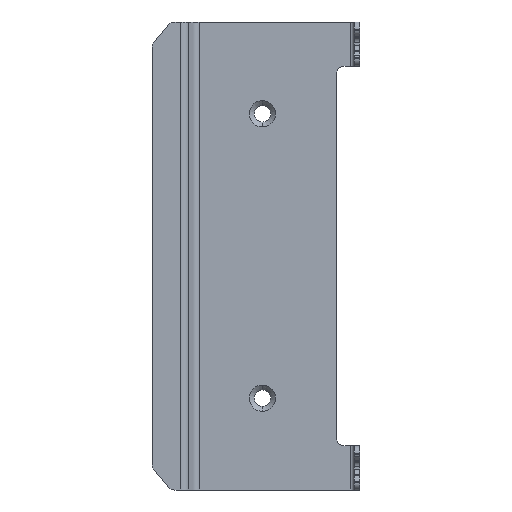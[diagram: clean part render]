
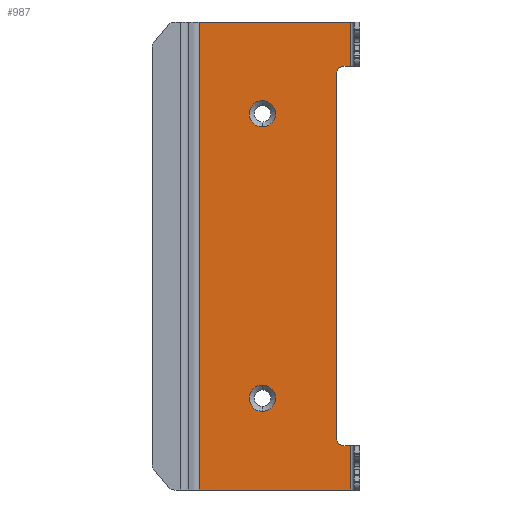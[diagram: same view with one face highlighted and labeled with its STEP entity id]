
A CAD part, left-side view. The second image highlights one B-rep face of the part: STEP entity #987.
In plain terms, the highlighted planar face has unit normal (-1, 0, 0).
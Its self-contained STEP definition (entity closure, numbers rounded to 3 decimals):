
#2 = AXIS2_PLACEMENT_3D ( 'NONE', #21, #190, #1787 ) ;
#15 = ORIENTED_EDGE ( 'NONE', *, *, #561, .T. ) ;
#21 = CARTESIAN_POINT ( 'NONE',  ( 7.3, -58.682, -50. ) ) ;
#23 = ORIENTED_EDGE ( 'NONE', *, *, #208, .F. ) ;
#32 = EDGE_CURVE ( 'NONE', #622, #879, #2449, .T. ) ;
#39 = ORIENTED_EDGE ( 'NONE', *, *, #2081, .T. ) ;
#77 = CARTESIAN_POINT ( 'NONE',  ( 7.3, -103.081, -24. ) ) ;
#79 = ORIENTED_EDGE ( 'NONE', *, *, #2356, .F. ) ;
#99 = DIRECTION ( 'NONE',  ( 0., 1., 0. ) ) ;
#122 = ORIENTED_EDGE ( 'NONE', *, *, #1177, .F. ) ;
#126 = EDGE_CURVE ( 'NONE', #1856, #1112, #2482, .T. ) ;
#129 = DIRECTION ( 'NONE',  ( 0., -1., 0. ) ) ;
#147 = DIRECTION ( 'NONE',  ( 0., -1., 0. ) ) ;
#166 = CARTESIAN_POINT ( 'NONE',  ( 7.3, -58.682, -57.15 ) ) ;
#175 = VECTOR ( 'NONE', #1851, 1000. ) ;
#181 = CARTESIAN_POINT ( 'NONE',  ( 7.3, -106.681, 0. ) ) ;
#190 = DIRECTION ( 'NONE',  ( -1., 0., 0. ) ) ;
#196 = VERTEX_POINT ( 'NONE', #166 ) ;
#200 = DIRECTION ( 'NONE',  ( 0., 0., 1. ) ) ;
#203 = VERTEX_POINT ( 'NONE', #1146 ) ;
#208 = EDGE_CURVE ( 'NONE', #203, #1835, #2333, .T. ) ;
#232 = EDGE_LOOP ( 'NONE', ( #15, #122, #39, #1952, #1638, #2275, #1219, #1140, #2318, #635 ) ) ;
#257 = CIRCLE ( 'NONE', #385, 7.15 ) ;
#277 = CARTESIAN_POINT ( 'NONE',  ( 7.3, -58.682, -50. ) ) ;
#305 = DIRECTION ( 'NONE',  ( -1., 0., 0. ) ) ;
#323 = EDGE_CURVE ( 'NONE', #1112, #2437, #1614, .T. ) ;
#331 = DIRECTION ( 'NONE',  ( -1., 0., 0. ) ) ;
#348 = EDGE_CURVE ( 'NONE', #2520, #196, #584, .T. ) ;
#359 = DIRECTION ( 'NONE',  ( 0., 1., 0. ) ) ;
#382 = CIRCLE ( 'NONE', #1082, 4. ) ;
#385 = AXIS2_PLACEMENT_3D ( 'NONE', #277, #305, #1096 ) ;
#463 = LINE ( 'NONE', #694, #1790 ) ;
#470 = EDGE_LOOP ( 'NONE', ( #1990, #23 ) ) ;
#480 = VECTOR ( 'NONE', #1849, 1000. ) ;
#496 = EDGE_CURVE ( 'NONE', #1335, #2008, #463, .T. ) ;
#509 = CARTESIAN_POINT ( 'NONE',  ( 7.3, -106.681, -24. ) ) ;
#533 = CARTESIAN_POINT ( 'NONE',  ( 7.3, -99.081, -28. ) ) ;
#543 = EDGE_LOOP ( 'NONE', ( #1495, #79 ) ) ;
#561 = EDGE_CURVE ( 'NONE', #622, #2234, #1924, .T. ) ;
#571 = FACE_OUTER_BOUND ( 'NONE', #232, .T. ) ;
#584 = CIRCLE ( 'NONE', #2, 7.15 ) ;
#622 = VERTEX_POINT ( 'NONE', #911 ) ;
#624 = DIRECTION ( 'NONE',  ( -1., 0., 0. ) ) ;
#635 = ORIENTED_EDGE ( 'NONE', *, *, #32, .F. ) ;
#646 = CARTESIAN_POINT ( 'NONE',  ( 7.3, -99.081, -227. ) ) ;
#694 = CARTESIAN_POINT ( 'NONE',  ( 7.3, -106.681, 0. ) ) ;
#715 = EDGE_CURVE ( 'NONE', #1835, #203, #2003, .T. ) ;
#738 = EDGE_CURVE ( 'NONE', #2437, #1914, #382, .T. ) ;
#789 = CARTESIAN_POINT ( 'NONE',  ( 7.3, -106.681, -231. ) ) ;
#809 = CARTESIAN_POINT ( 'NONE',  ( 7.3, -103.081, -231. ) ) ;
#828 = VECTOR ( 'NONE', #1118, 1000. ) ;
#848 = CARTESIAN_POINT ( 'NONE',  ( 7.3, -58.682, -197.85 ) ) ;
#860 = EDGE_CURVE ( 'NONE', #2008, #1914, #1471, .T. ) ;
#870 = DIRECTION ( 'NONE',  ( 0., -1., 0. ) ) ;
#879 = VERTEX_POINT ( 'NONE', #2505 ) ;
#901 = CARTESIAN_POINT ( 'NONE',  ( 7.3, -106.681, -24. ) ) ;
#911 = CARTESIAN_POINT ( 'NONE',  ( 7.3, -24.256, -255. ) ) ;
#926 = CARTESIAN_POINT ( 'NONE',  ( 7.3, -21.081, -255. ) ) ;
#987 = ADVANCED_FACE ( 'NONE', ( #1126, #2560, #571 ), #2581, .T. ) ;
#1038 = LINE ( 'NONE', #2486, #2051 ) ;
#1040 = AXIS2_PLACEMENT_3D ( 'NONE', #1155, #624, #2564 ) ;
#1049 = LINE ( 'NONE', #1834, #175 ) ;
#1082 = AXIS2_PLACEMENT_3D ( 'NONE', #2025, #2412, #1839 ) ;
#1096 = DIRECTION ( 'NONE',  ( 0., 0., 1. ) ) ;
#1112 = VERTEX_POINT ( 'NONE', #646 ) ;
#1118 = DIRECTION ( 'NONE',  ( 0., -1., 0. ) ) ;
#1126 = FACE_BOUND ( 'NONE', #470, .T. ) ;
#1140 = ORIENTED_EDGE ( 'NONE', *, *, #496, .F. ) ;
#1146 = CARTESIAN_POINT ( 'NONE',  ( 7.3, -58.682, -212.15 ) ) ;
#1155 = CARTESIAN_POINT ( 'NONE',  ( 7.3, -58.682, -205. ) ) ;
#1177 = EDGE_CURVE ( 'NONE', #1178, #2234, #1049, .T. ) ;
#1178 = VERTEX_POINT ( 'NONE', #789 ) ;
#1219 = ORIENTED_EDGE ( 'NONE', *, *, #860, .F. ) ;
#1226 = CARTESIAN_POINT ( 'NONE',  ( 7.3, -99.081, -255. ) ) ;
#1335 = VERTEX_POINT ( 'NONE', #181 ) ;
#1357 = CARTESIAN_POINT ( 'NONE',  ( 7.3, -58.682, -205. ) ) ;
#1385 = AXIS2_PLACEMENT_3D ( 'NONE', #2137, #1940, #129 ) ;
#1471 = LINE ( 'NONE', #509, #1964 ) ;
#1495 = ORIENTED_EDGE ( 'NONE', *, *, #348, .F. ) ;
#1497 = AXIS2_PLACEMENT_3D ( 'NONE', #1357, #331, #1911 ) ;
#1614 = LINE ( 'NONE', #1226, #2258 ) ;
#1638 = ORIENTED_EDGE ( 'NONE', *, *, #323, .T. ) ;
#1706 = CARTESIAN_POINT ( 'NONE',  ( 7.3, -58.682, -42.85 ) ) ;
#1787 = DIRECTION ( 'NONE',  ( 0., 0., 1. ) ) ;
#1790 = VECTOR ( 'NONE', #2489, 1000. ) ;
#1814 = CARTESIAN_POINT ( 'NONE',  ( 7.3, -106.681, -255. ) ) ;
#1834 = CARTESIAN_POINT ( 'NONE',  ( 7.3, -106.681, -231. ) ) ;
#1835 = VERTEX_POINT ( 'NONE', #848 ) ;
#1839 = DIRECTION ( 'NONE',  ( 0., -1., 0. ) ) ;
#1849 = DIRECTION ( 'NONE',  ( 0., 0., 1. ) ) ;
#1851 = DIRECTION ( 'NONE',  ( 0., 0., -1. ) ) ;
#1856 = VERTEX_POINT ( 'NONE', #809 ) ;
#1901 = CARTESIAN_POINT ( 'NONE',  ( 7.3, -24.256, -255. ) ) ;
#1911 = DIRECTION ( 'NONE',  ( 0., 0., 1. ) ) ;
#1914 = VERTEX_POINT ( 'NONE', #77 ) ;
#1924 = LINE ( 'NONE', #926, #828 ) ;
#1940 = DIRECTION ( 'NONE',  ( 1., 0., 0. ) ) ;
#1952 = ORIENTED_EDGE ( 'NONE', *, *, #126, .T. ) ;
#1964 = VECTOR ( 'NONE', #99, 1000. ) ;
#1977 = CARTESIAN_POINT ( 'NONE',  ( 7.3, -106.681, -231. ) ) ;
#1990 = ORIENTED_EDGE ( 'NONE', *, *, #715, .F. ) ;
#2003 = CIRCLE ( 'NONE', #1040, 7.15 ) ;
#2008 = VERTEX_POINT ( 'NONE', #901 ) ;
#2025 = CARTESIAN_POINT ( 'NONE',  ( 7.3, -103.081, -28. ) ) ;
#2051 = VECTOR ( 'NONE', #870, 1000. ) ;
#2081 = EDGE_CURVE ( 'NONE', #1178, #1856, #2147, .T. ) ;
#2137 = CARTESIAN_POINT ( 'NONE',  ( 7.3, -103.081, -227. ) ) ;
#2147 = LINE ( 'NONE', #1977, #2266 ) ;
#2167 = DIRECTION ( 'NONE',  ( -1., 0., 0. ) ) ;
#2234 = VERTEX_POINT ( 'NONE', #1814 ) ;
#2258 = VECTOR ( 'NONE', #200, 1000. ) ;
#2263 = AXIS2_PLACEMENT_3D ( 'NONE', #2569, #2167, #147 ) ;
#2266 = VECTOR ( 'NONE', #359, 1000. ) ;
#2275 = ORIENTED_EDGE ( 'NONE', *, *, #738, .T. ) ;
#2318 = ORIENTED_EDGE ( 'NONE', *, *, #2374, .F. ) ;
#2333 = CIRCLE ( 'NONE', #1497, 7.15 ) ;
#2356 = EDGE_CURVE ( 'NONE', #196, #2520, #257, .T. ) ;
#2374 = EDGE_CURVE ( 'NONE', #879, #1335, #1038, .T. ) ;
#2412 = DIRECTION ( 'NONE',  ( 1., 0., 0. ) ) ;
#2437 = VERTEX_POINT ( 'NONE', #533 ) ;
#2449 = LINE ( 'NONE', #1901, #480 ) ;
#2482 = CIRCLE ( 'NONE', #1385, 4. ) ;
#2486 = CARTESIAN_POINT ( 'NONE',  ( 7.3, -21.081, 0. ) ) ;
#2489 = DIRECTION ( 'NONE',  ( 0., 0., -1. ) ) ;
#2505 = CARTESIAN_POINT ( 'NONE',  ( 7.3, -24.256, 0. ) ) ;
#2520 = VERTEX_POINT ( 'NONE', #1706 ) ;
#2560 = FACE_BOUND ( 'NONE', #543, .T. ) ;
#2564 = DIRECTION ( 'NONE',  ( 0., 0., 1. ) ) ;
#2569 = CARTESIAN_POINT ( 'NONE',  ( 7.3, -21.081, -255. ) ) ;
#2581 = PLANE ( 'NONE',  #2263 ) ;
